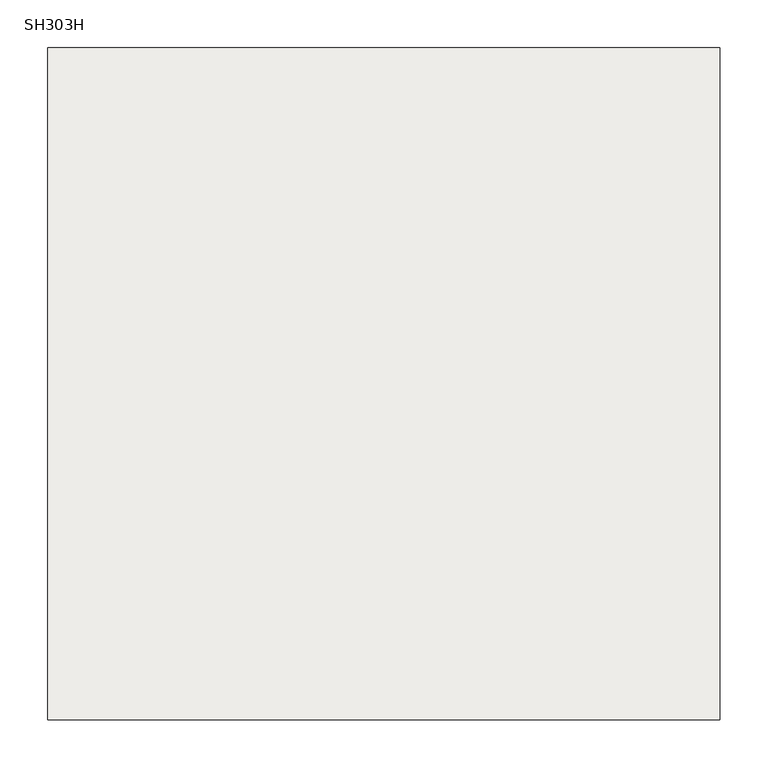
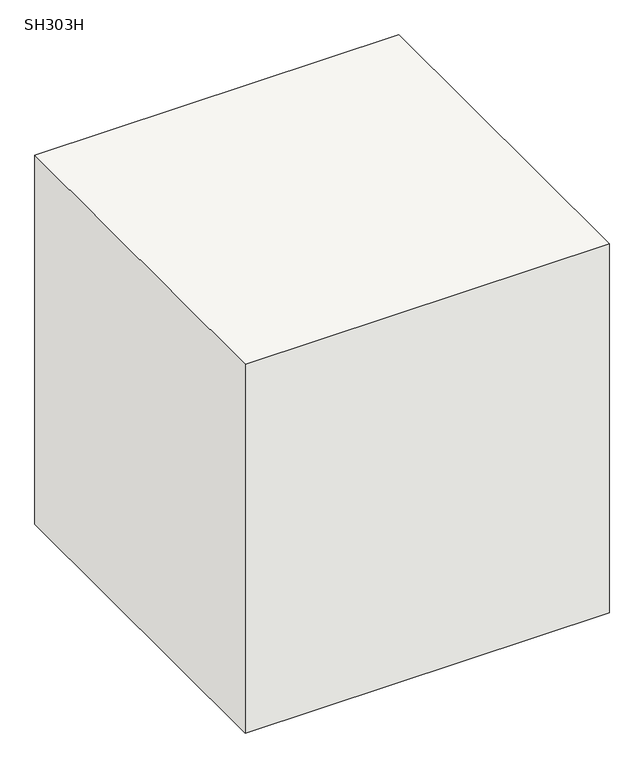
"""IFC4 building model written with IfcOpenShell, lengths in millimetres: slab geometry, 柱形_SH : SH303H."""

from ifc_helpers import new_model, si_unit, frame, origin, place, context, project, spatial, polyline, outline, extrude, source, transform, mapped, element, save


def sh303h_fd9c4a22(model_context):
    return source(origin(), model_context, "Body", "SweptSolid", [
        extrude(outline(polyline([(350.0, 350.0), (350.0, -350.0), (-350.0, -350.0), (-350.0, 350.0), (350.0, 350.0)])), frame((0.0, 0.0, -750.0), z_axis=(0.0, 0.0, 1.0), x_axis=(1.0, 0.0, 0.0)), (0.0, 0.0, 1.0), 750.0),
    ])


if __name__ == "__main__":
    model = new_model("IFC4")
    model_context = context("Model", 3, world=origin())
    ifc_project = project(units=[si_unit("LENGTHUNIT", "METRE", prefix="MILLI")], contexts=[model_context])
    site = spatial("IfcSite", under=ifc_project)
    building = spatial("IfcBuilding", under=site)
    placement = place(None, origin())
    sh303h_shape = sh303h_fd9c4a22(model_context)
    element("IfcSlab", 1, ObjectType="柱形_SH : SH303H", at=placement, inside=building, context=model_context, shape_type="MappedRepresentation", body=[
        mapped(sh303h_shape, transform((0.0, 0.0, 0.0), x_axis=(1.0, 0.0, 0.0), y_axis=(0.0, 1.0, 0.0), z_axis=(0.0, 0.0, 1.0))),
    ])
    save(model, "model.ifc")
